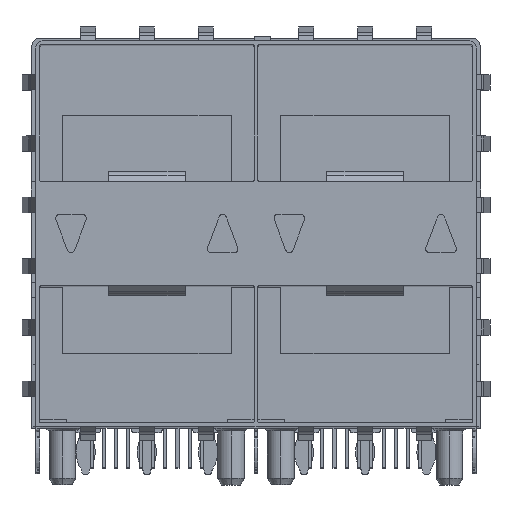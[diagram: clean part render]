
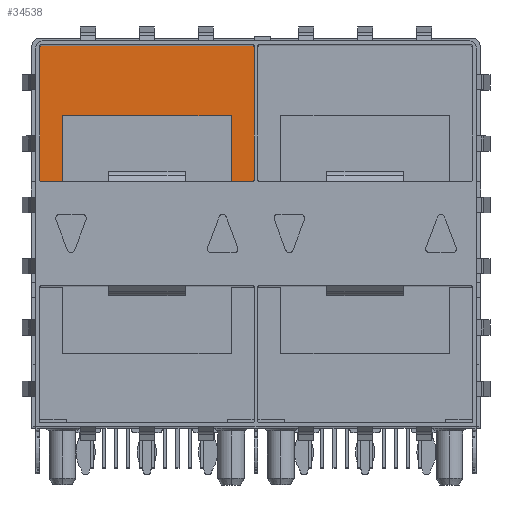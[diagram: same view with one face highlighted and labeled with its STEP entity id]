
A CAD part, top view. The second image highlights one B-rep face of the part: STEP entity #34538.
In plain terms, the highlighted planar face has unit normal (0, 0, 1).
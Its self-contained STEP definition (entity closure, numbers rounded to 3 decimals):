
#48 = DIRECTION ( 'NONE',  ( -1., 0., 0. ) ) ;
#103 = EDGE_CURVE ( 'NONE', #20666, #32758, #36660, .T. ) ;
#195 = DIRECTION ( 'NONE',  ( 1., 0., 0. ) ) ;
#625 = LINE ( 'NONE', #39018, #22506 ) ;
#1709 = EDGE_CURVE ( 'NONE', #9512, #4272, #39255, .T. ) ;
#2159 = VERTEX_POINT ( 'NONE', #29818 ) ;
#2404 = EDGE_CURVE ( 'NONE', #31003, #19064, #28741, .T. ) ;
#2544 = DIRECTION ( 'NONE',  ( -1., 0., 0. ) ) ;
#2686 = CARTESIAN_POINT ( 'NONE',  ( -0.225, 24.85, -48.55 ) ) ;
#3131 = VECTOR ( 'NONE', #24867, 1000. ) ;
#3366 = CARTESIAN_POINT ( 'NONE',  ( -14.125, 16.1, -48.55 ) ) ;
#3586 = EDGE_CURVE ( 'NONE', #6823, #31003, #5302, .T. ) ;
#3723 = EDGE_LOOP ( 'NONE', ( #9839, #5965, #37370, #16538, #12113, #10478, #15412, #38961, #34481, #28790, #33896, #7378 ) ) ;
#3801 = VECTOR ( 'NONE', #21369, 1000. ) ;
#4141 = LINE ( 'NONE', #11104, #3131 ) ;
#4272 = VERTEX_POINT ( 'NONE', #33492 ) ;
#4662 = AXIS2_PLACEMENT_3D ( 'NONE', #2686, #30850, #2544 ) ;
#4719 = DIRECTION ( 'NONE',  ( 0., 0., -1. ) ) ;
#4960 = AXIS2_PLACEMENT_3D ( 'NONE', #7779, #4719, #33240 ) ;
#5302 = LINE ( 'NONE', #32461, #31699 ) ;
#5965 = ORIENTED_EDGE ( 'NONE', *, *, #8162, .T. ) ;
#6823 = VERTEX_POINT ( 'NONE', #16467 ) ;
#7378 = ORIENTED_EDGE ( 'NONE', *, *, #36477, .T. ) ;
#7688 = EDGE_CURVE ( 'NONE', #15994, #12765, #4141, .T. ) ;
#7779 = CARTESIAN_POINT ( 'NONE',  ( -14.375, 25.2, -48.55 ) ) ;
#7802 = EDGE_CURVE ( 'NONE', #26856, #6823, #23545, .T. ) ;
#7888 = LINE ( 'NONE', #15085, #31765 ) ;
#8162 = EDGE_CURVE ( 'NONE', #4272, #2159, #625, .T. ) ;
#8610 = CARTESIAN_POINT ( 'NONE',  ( -14.025, 16.1, -48.55 ) ) ;
#8884 = VECTOR ( 'NONE', #33632, 1000. ) ;
#9512 = VERTEX_POINT ( 'NONE', #9777 ) ;
#9777 = CARTESIAN_POINT ( 'NONE',  ( -0.125, 24.85, -48.55 ) ) ;
#9839 = ORIENTED_EDGE ( 'NONE', *, *, #1709, .T. ) ;
#10478 = ORIENTED_EDGE ( 'NONE', *, *, #17899, .T. ) ;
#10777 = DIRECTION ( 'NONE',  ( -1., 0., 0. ) ) ;
#11104 = CARTESIAN_POINT ( 'NONE',  ( -14.125, 24.85, -48.55 ) ) ;
#11342 = CARTESIAN_POINT ( 'NONE',  ( -12.625, 16., -48.55 ) ) ;
#11478 = VERTEX_POINT ( 'NONE', #25186 ) ;
#11789 = AXIS2_PLACEMENT_3D ( 'NONE', #8610, #15320, #17978 ) ;
#12113 = ORIENTED_EDGE ( 'NONE', *, *, #13674, .T. ) ;
#12740 = DIRECTION ( 'NONE',  ( 0., -1., 0. ) ) ;
#12765 = VERTEX_POINT ( 'NONE', #3366 ) ;
#12877 = CIRCLE ( 'NONE', #23846, 0.1 ) ;
#13402 = LINE ( 'NONE', #14998, #8884 ) ;
#13674 = EDGE_CURVE ( 'NONE', #12765, #11478, #23667, .T. ) ;
#13811 = FACE_OUTER_BOUND ( 'NONE', #3723, .T. ) ;
#14998 = CARTESIAN_POINT ( 'NONE',  ( -0.125, 16.1, -48.55 ) ) ;
#15085 = CARTESIAN_POINT ( 'NONE',  ( -12.625, 20.35, -48.55 ) ) ;
#15251 = DIRECTION ( 'NONE',  ( 1., 0., 0. ) ) ;
#15320 = DIRECTION ( 'NONE',  ( 0., 0., 1. ) ) ;
#15412 = ORIENTED_EDGE ( 'NONE', *, *, #103, .T. ) ;
#15994 = VERTEX_POINT ( 'NONE', #40260 ) ;
#16184 = CARTESIAN_POINT ( 'NONE',  ( -0.225, 16.1, -48.55 ) ) ;
#16467 = CARTESIAN_POINT ( 'NONE',  ( -1.625, 16., -48.55 ) ) ;
#16538 = ORIENTED_EDGE ( 'NONE', *, *, #7688, .T. ) ;
#17899 = EDGE_CURVE ( 'NONE', #11478, #20666, #38273, .T. ) ;
#17978 = DIRECTION ( 'NONE',  ( -1., 0., 0. ) ) ;
#18176 = CARTESIAN_POINT ( 'NONE',  ( -0.225, 16., -48.55 ) ) ;
#18943 = DIRECTION ( 'NONE',  ( -1., 0., 0. ) ) ;
#19064 = VERTEX_POINT ( 'NONE', #40814 ) ;
#19127 = DIRECTION ( 'NONE',  ( 0., 0., 1. ) ) ;
#20666 = VERTEX_POINT ( 'NONE', #11342 ) ;
#21369 = DIRECTION ( 'NONE',  ( 0., 1., 0. ) ) ;
#21916 = CARTESIAN_POINT ( 'NONE',  ( -14.025, 24.85, -48.55 ) ) ;
#22506 = VECTOR ( 'NONE', #10777, 1000. ) ;
#23545 = LINE ( 'NONE', #34608, #38466 ) ;
#23618 = AXIS2_PLACEMENT_3D ( 'NONE', #16184, #38394, #18943 ) ;
#23667 = CIRCLE ( 'NONE', #11789, 0.1 ) ;
#23846 = AXIS2_PLACEMENT_3D ( 'NONE', #21916, #19127, #48 ) ;
#24867 = DIRECTION ( 'NONE',  ( 0., -1., 0. ) ) ;
#25186 = CARTESIAN_POINT ( 'NONE',  ( -14.025, 16., -48.55 ) ) ;
#26575 = CARTESIAN_POINT ( 'NONE',  ( -12.625, 20.35, -48.55 ) ) ;
#26856 = VERTEX_POINT ( 'NONE', #28617 ) ;
#28617 = CARTESIAN_POINT ( 'NONE',  ( -1.625, 20.35, -48.55 ) ) ;
#28741 = CIRCLE ( 'NONE', #23618, 0.1 ) ;
#28790 = ORIENTED_EDGE ( 'NONE', *, *, #3586, .T. ) ;
#29818 = CARTESIAN_POINT ( 'NONE',  ( -14.025, 24.95, -48.55 ) ) ;
#30850 = DIRECTION ( 'NONE',  ( 0., 0., 1. ) ) ;
#30971 = CARTESIAN_POINT ( 'NONE',  ( -12.625, 20.35, -48.55 ) ) ;
#31003 = VERTEX_POINT ( 'NONE', #18176 ) ;
#31699 = VECTOR ( 'NONE', #195, 1000. ) ;
#31765 = VECTOR ( 'NONE', #37312, 1000. ) ;
#32461 = CARTESIAN_POINT ( 'NONE',  ( -1.625, 16., -48.55 ) ) ;
#32758 = VERTEX_POINT ( 'NONE', #26575 ) ;
#33240 = DIRECTION ( 'NONE',  ( -1., 0., 0. ) ) ;
#33492 = CARTESIAN_POINT ( 'NONE',  ( -0.225, 24.95, -48.55 ) ) ;
#33632 = DIRECTION ( 'NONE',  ( 0., 1., 0. ) ) ;
#33638 = EDGE_CURVE ( 'NONE', #2159, #15994, #12877, .T. ) ;
#33896 = ORIENTED_EDGE ( 'NONE', *, *, #2404, .T. ) ;
#34135 = EDGE_CURVE ( 'NONE', #32758, #26856, #7888, .T. ) ;
#34481 = ORIENTED_EDGE ( 'NONE', *, *, #7802, .T. ) ;
#34538 = ADVANCED_FACE ( 'NONE', ( #13811 ), #36711, .F. ) ;
#34608 = CARTESIAN_POINT ( 'NONE',  ( -1.625, 20.35, -48.55 ) ) ;
#34815 = VECTOR ( 'NONE', #15251, 1000. ) ;
#36477 = EDGE_CURVE ( 'NONE', #19064, #9512, #13402, .T. ) ;
#36660 = LINE ( 'NONE', #30971, #3801 ) ;
#36711 = PLANE ( 'NONE',  #4960 ) ;
#37312 = DIRECTION ( 'NONE',  ( 1., 0., 0. ) ) ;
#37370 = ORIENTED_EDGE ( 'NONE', *, *, #33638, .T. ) ;
#38273 = LINE ( 'NONE', #40538, #34815 ) ;
#38394 = DIRECTION ( 'NONE',  ( 0., 0., 1. ) ) ;
#38466 = VECTOR ( 'NONE', #12740, 1000. ) ;
#38961 = ORIENTED_EDGE ( 'NONE', *, *, #34135, .T. ) ;
#39018 = CARTESIAN_POINT ( 'NONE',  ( -0.225, 24.95, -48.55 ) ) ;
#39255 = CIRCLE ( 'NONE', #4662, 0.1 ) ;
#40260 = CARTESIAN_POINT ( 'NONE',  ( -14.125, 24.85, -48.55 ) ) ;
#40538 = CARTESIAN_POINT ( 'NONE',  ( -12.625, 16., -48.55 ) ) ;
#40814 = CARTESIAN_POINT ( 'NONE',  ( -0.125, 16.1, -48.55 ) ) ;
